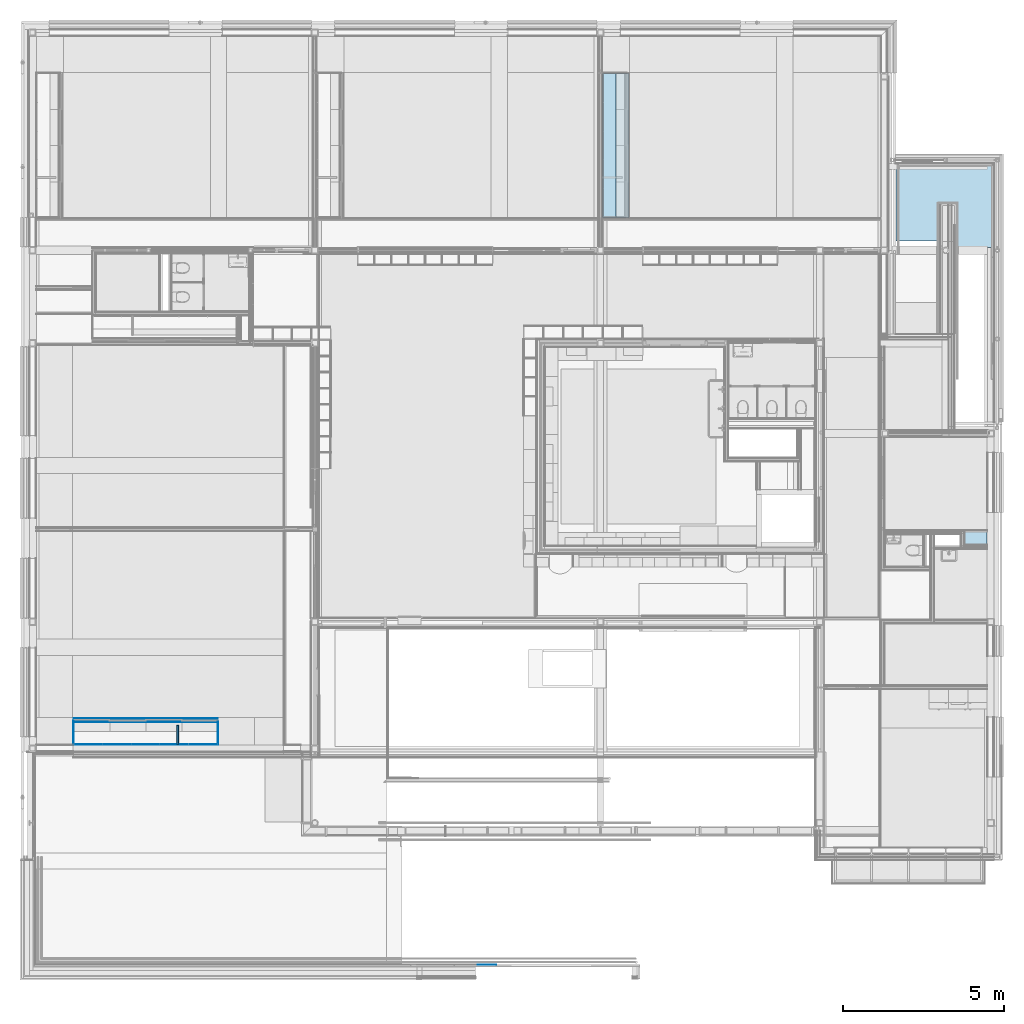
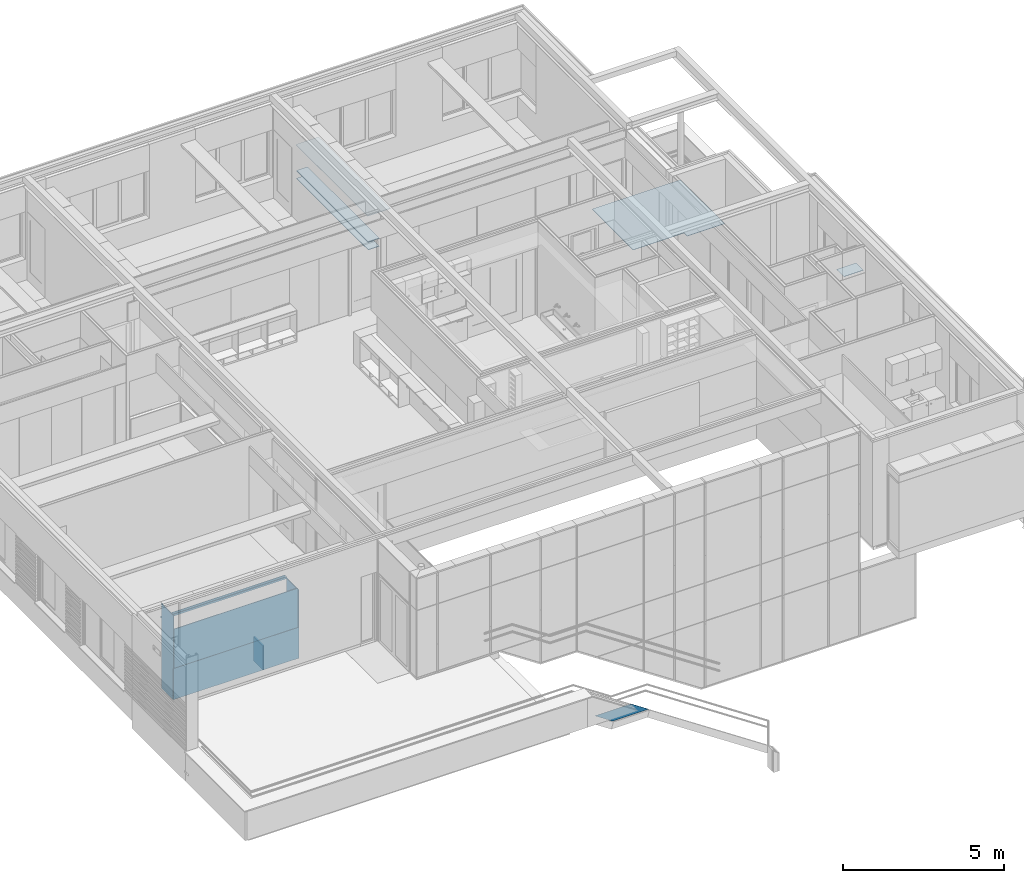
# One storey, part 41 of 137: 8 walls, 5 slabs.
"""IFC2X3 building model written with IfcOpenShell, lengths in millimetres."""

from ifc_helpers import new_model, entity, si_unit, converted_unit, derived_unit, money_unit, direction, frame, origin_with_axes, place, context, subcontext, project, spatial, faceted_brep, material, type_object, element, save


model = new_model("IFC2X3")

# Units and contexts
model_context = context("Model", 3, precision=0.01, world=origin_with_axes(), true_north=direction((0.0, 1.0)))
body_context = subcontext(model_context, "Body", "Model", "MODEL_VIEW")
ifc_project = project(units=[si_unit("LENGTHUNIT", "METRE", prefix="MILLI"), si_unit("AREAUNIT", "SQUARE_METRE"), si_unit("VOLUMEUNIT", "CUBIC_METRE"), converted_unit("PLANEANGLEUNIT", "DEGREE", entity("IfcPlaneAngleMeasure", 0.0174532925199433), si_unit("PLANEANGLEUNIT", "RADIAN"), dimensions=[0, 0, 0, 0, 0, 0, 0]), money_unit("EUR"), converted_unit("TIMEUNIT", "Year", entity("IfcTimeMeasure", 31556926.0), si_unit("TIMEUNIT", "SECOND"), dimensions=[0, 0, 1, 0, 0, 0, 0]), si_unit("MASSUNIT", "GRAM", prefix="KILO"), si_unit("THERMODYNAMICTEMPERATUREUNIT", "DEGREE_CELSIUS"), si_unit("LUMINOUSINTENSITYUNIT", "LUMEN"), si_unit("ENERGYUNIT", "JOULE", prefix="MEGA"), derived_unit("THERMALCONDUCTANCEUNIT", [(si_unit("POWERUNIT", "WATT"), 1), (si_unit("LENGTHUNIT", "METRE"), -1), (si_unit("THERMODYNAMICTEMPERATUREUNIT", "KELVIN"), -1)]), derived_unit("SPECIFICHEATCAPACITYUNIT", [(si_unit("ENERGYUNIT", "JOULE"), 1), (si_unit("MASSUNIT", "GRAM", prefix="KILO"), -1), (si_unit("THERMODYNAMICTEMPERATUREUNIT", "KELVIN"), -1)]), derived_unit("MASSDENSITYUNIT", [(si_unit("MASSUNIT", "GRAM", prefix="KILO"), 1), (si_unit("VOLUMEUNIT", "CUBIC_METRE"), -1)])], contexts=[model_context])

# Site, building, storey
site_placement = place(None, origin_with_axes())
site = spatial("IfcSite", under=ifc_project, at=site_placement, Name="Site", CompositionType="ELEMENT")
building_placement = place(site_placement, origin_with_axes())
building = spatial("IfcBuilding", under=site, at=building_placement, Name="Naam gebouw", CompositionType="ELEMENT")
storey_placement = place(building_placement, frame((0.0, 0.0, 3960.0), z_axis=(0.0, 0.0, 1.0), x_axis=(1.0, 0.0, 0.0)))
storey = spatial("IfcBuildingStorey", under=building, at=storey_placement, Name="1e verdieping", CompositionType="ELEMENT", Elevation=3960.0)

# Slabs
ifc_material_1 = material(Name="Gipsplaat")
slab_type_1 = type_object("IfcSlabType", Name="Gipsplaat 12", PredefinedType="NOTDEFINED")
slab_1_placement = place(storey_placement, frame((28985.99999991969, 13649.99778166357, 2600.0), z_axis=(0.0, 0.0, 1.0), x_axis=(1.0, 0.0, 0.0)))
element("IfcSlab", 1, at=slab_1_placement, inside=storey, type_object=slab_type_1, material=ifc_material_1, Name="f7 Vormvaste grondstoffen, gebonden met gips_Vloer-x", PredefinedType="NOTDEFINED", context=body_context, shape_type="Brep", body=[
    faceted_brep([(0.0, 0.0, 11.99999999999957), (0.0, 0.0, 0.0), (0.007603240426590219, -450.0118316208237, 0.0), (0.007603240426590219, -450.0118316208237, 11.99999999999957), (700.0000000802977, 0.0118269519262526, 11.99999999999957), (700.0000000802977, 0.0118269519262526, 0.0), (700.0076033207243, -450.0000046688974, 0.0), (700.0076033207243, -450.0000046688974, 11.99999999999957)], [[[0, 1, 2, 3]], [[4, 5, 1, 0]], [[2, 1, 5, 6]], [[3, 2, 6, 7]], [[4, 0, 3, 7]], [[7, 6, 5, 4]]]),
])
ifc_material_2 = material(Name="Hout - Multiplex")
slab_type_2 = type_object("IfcSlabType", Name="Hout - Multiplex 20", PredefinedType="NOTDEFINED")
slab_2_placement = place(storey_placement, frame((18184.49942456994, 23347.99984707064, 1400.0), z_axis=(0.0, 0.0, 1.0), x_axis=(1.0, 0.0, 0.0)))
element("IfcSlab", 2, at=slab_2_placement, inside=storey, type_object=slab_type_2, material=ifc_material_2, Name="i4 In lagen verlijmd hout_Vloer-x", PredefinedType="NOTDEFINED", context=body_context, shape_type="Brep", body=[
    faceted_brep([(0.0, 0.0, 0.0), (0.0, 0.0, -19.99999999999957), (0.0, 4460.000000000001, -19.99999999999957), (0.0, 4460.000000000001, 0.0), (-400.0000000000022, 0.0, 0.0), (-400.0000000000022, 0.0, -19.99999999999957), (-400.0000000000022, 4460.000000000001, -19.99999999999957), (-400.0000000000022, 4460.000000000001, 0.0)], [[[0, 1, 2, 3]], [[4, 5, 1, 0]], [[2, 1, 5, 6]], [[3, 2, 6, 7]], [[4, 0, 3, 7]], [[7, 6, 5, 4]]]),
])
slab_3_placement = place(storey_placement, frame((18184.49942456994, 23347.99984707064, 1699.999999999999), z_axis=(0.0, 0.0, 1.0), x_axis=(1.0, 0.0, 0.0)))
element("IfcSlab", 3, at=slab_3_placement, inside=storey, type_object=slab_type_2, material=ifc_material_2, Name="i4 In lagen verlijmd hout_Vloer-x", PredefinedType="NOTDEFINED", context=body_context, shape_type="Brep", body=[
    faceted_brep([(0.0, 0.0, 0.0), (0.0, 0.0, -19.99999999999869), (0.0, 4460.000000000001, -19.99999999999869), (0.0, 4460.000000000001, 0.0), (-400.0000000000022, 0.0, 0.0), (-400.0000000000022, 0.0, -19.99999999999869), (-400.0000000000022, 4460.000000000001, -19.99999999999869), (-400.0000000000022, 4460.000000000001, 0.0)], [[[0, 1, 2, 3]], [[4, 5, 1, 0]], [[2, 1, 5, 6]], [[3, 2, 6, 7]], [[4, 0, 3, 7]], [[7, 6, 5, 4]]]),
])
slab_4_placement = place(storey_placement, frame((18589.49942456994, 23347.99984707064, 2689.999999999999), z_axis=(0.0, 0.0, 1.0), x_axis=(1.0, 0.0, 0.0)))
element("IfcSlab", 4, at=slab_4_placement, inside=storey, type_object=slab_type_2, material=ifc_material_2, Name="i4 In lagen verlijmd hout_Vloer-x", PredefinedType="NOTDEFINED", context=body_context, shape_type="Brep", body=[
    faceted_brep([(0.0, 0.0, 0.0), (0.0, 0.0, -19.99999999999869), (0.0, 4460.000000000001, -19.99999999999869), (0.0, 4460.000000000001, 0.0), (-825.0000000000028, 0.0, 0.0), (-825.0000000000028, 0.0, -19.99999999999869), (-825.0000000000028, 4460.000000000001, -19.99999999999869), (-825.0000000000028, 4460.000000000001, 0.0)], [[[0, 1, 2, 3]], [[4, 5, 1, 0]], [[2, 1, 5, 6]], [[3, 2, 6, 7]], [[4, 0, 3, 7]], [[7, 6, 5, 4]]]),
])
ifc_material_3 = material(Name="Cementgebonden plaatmateriaal")
slab_type_3 = type_object("IfcSlabType", Name="Cementgebonden plaatmateriaal 12", PredefinedType="NOTDEFINED")
slab_5_placement = place(storey_placement, frame((30034.99999999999, 22420.97621590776, -1350.0), z_axis=(0.0, 0.0, 1.0), x_axis=(1.0, 0.0, 0.0)))
element("IfcSlab", 5, at=slab_5_placement, inside=storey, type_object=slab_type_3, material=ifc_material_3, Name="f7 Vormvaste grondstoffen, gebonden met gips_Vloer-x", PredefinedType="NOTDEFINED", context=body_context, shape_type="Brep", body=[
    faceted_brep([(0.0, 0.0, 12.00000000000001), (0.0, 0.0, 0.0), (0.0, 2744.000003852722, 0.0), (0.0, 2744.000003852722, 12.00000000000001), (-1348.999976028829, 0.0, 12.00000000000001), (-1348.999976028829, 0.0, 0.0), (-1348.999976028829, 189.9999999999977, 0.0), (-3174.999999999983, 189.9999999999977, 0.0), (-3174.999999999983, 2744.000003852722, 0.0), (-3174.999999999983, 2744.000003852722, 12.00000000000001), (-3174.999999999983, 189.9999999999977, 12.00000000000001), (-1348.999976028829, 189.9999999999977, 12.00000000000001)], [[[0, 1, 2, 3]], [[4, 5, 1, 0]], [[2, 1, 5, 6, 7, 8]], [[3, 2, 8, 9]], [[4, 0, 3, 9, 10, 11]], [[11, 6, 5, 4]], [[10, 7, 6, 11]], [[9, 8, 7, 10]]]),
])

# Walls
wall_type_1 = type_object("IfcWallType", Name="Hout - Multiplex 20", PredefinedType="NOTDEFINED")
wall_1_placement = place(storey_placement, frame((5834.000000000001, 7800.999661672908, 2600.0), z_axis=(0.0, 0.0, 1.0), x_axis=(-1.0, 0.0, 0.0)))
element("IfcWall", 6, at=wall_1_placement, inside=storey, type_object=wall_type_1, material=ifc_material_2, Name="21_Wand-x", context=body_context, shape_type="Brep", body=[
    faceted_brep([(0.0, -19.99999999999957, 69.9999999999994), (4460.000000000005, -20.00000000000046, 69.9999999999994), (4460.000000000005, 0.0, 69.9999999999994), (0.0, 0.0, 69.9999999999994), (0.0, -19.99999999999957, 0.0), (4460.000000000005, -20.00000000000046, 0.0), (4460.000000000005, 0.0, 0.0), (0.0, 0.0, 0.0)], [[[0, 1, 2, 3]], [[4, 5, 1, 0]], [[2, 1, 5, 6]], [[3, 2, 6, 7]], [[4, 0, 3, 7]], [[7, 6, 5, 4]]]),
])
wall_2_placement = place(storey_placement, frame((5834.000000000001, 7695.999661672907, 2600.0), z_axis=(0.0, 0.0, 1.0), x_axis=(-1.0, 0.0, 0.0)))
element("IfcWall", 7, at=wall_2_placement, inside=storey, type_object=wall_type_1, material=ifc_material_2, Name="21_Wand-x", context=body_context, shape_type="Brep", body=[
    faceted_brep([(4460.000000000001, -20.00000000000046, 69.9999999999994), (4460.000000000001, 0.0, 69.9999999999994), (0.0, 0.0, 69.9999999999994), (0.0, -19.99999999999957, 69.9999999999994), (4460.000000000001, -20.00000000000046, 0.0), (4460.000000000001, 0.0, 0.0), (0.0, 0.0, 0.0), (0.0, -19.99999999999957, 0.0)], [[[0, 1, 2, 3]], [[1, 0, 4, 5]], [[1, 5, 6, 2]], [[7, 3, 2, 6]], [[4, 0, 3, 7]], [[5, 4, 7, 6]]]),
])
wall_3_placement = place(storey_placement, frame((5834.0, 6993.999661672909, 1.99999999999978), z_axis=(0.0, 0.0, 1.0), x_axis=(-1.0, 0.0, 0.0)))
element("IfcWall", 8, at=wall_3_placement, inside=storey, type_object=wall_type_1, material=ifc_material_2, Name="21_Wand-x", context=body_context, shape_type="Brep", body=[
    faceted_brep([(4480.0, -20.00000000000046, 1180.0), (4480.0, 0.0, 1180.0), (-19.99999999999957, 0.0, 1180.0), (-19.99999999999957, -19.99999999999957, 1180.0), (4480.0, -20.00000000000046, 0.0), (4480.0, 0.0, 0.0), (-19.99999999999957, 0.0, 0.0), (-19.99999999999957, -19.99999999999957, 0.0)], [[[0, 1, 2, 3]], [[1, 0, 4, 5]], [[1, 5, 6, 2]], [[7, 3, 2, 6]], [[4, 0, 3, 7]], [[5, 4, 7, 6]]]),
])
wall_4_placement = place(storey_placement, frame((1373.999999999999, 7743.999661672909, 0.0), z_axis=(0.0, 0.0, 1.0), x_axis=(0.0, -1.0, 0.0)))
element("IfcWall", 9, at=wall_4_placement, inside=storey, type_object=wall_type_1, material=ifc_material_2, Name="21_Wand-x", context=body_context, shape_type="Brep", body=[
    faceted_brep([(729.9999999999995, 0.0, 1182.0), (729.9999999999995, 0.0, 1.99999999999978), (750.0, 0.0, 1.99999999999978), (750.0, 0.0, 0.0), (0.0, 0.0, 0.0), (0.0, 0.0, 3200.0), (750.0, 0.0, 3200.0), (750.0, 0.0, 1182.0), (729.9999999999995, -20.00000000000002, 1.99999999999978), (729.9999999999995, -20.00000000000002, 1182.0), (750.0, -20.00000000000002, 1.99999999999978), (750.0, -20.00000000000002, 0.0), (0.0, -20.00000000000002, 0.0), (0.0, -20.00000000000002, 3200.0), (750.0, -20.00000000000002, 3200.0), (750.0, -20.00000000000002, 1182.0)], [[[0, 1, 2, 3, 4, 5, 6, 7]], [[8, 1, 0, 9]], [[10, 2, 1, 8]], [[3, 2, 10, 11]], [[12, 4, 3, 11]], [[5, 4, 12, 13]], [[5, 13, 14, 6]], [[14, 15, 7, 6]], [[9, 0, 7, 15]], [[8, 9, 15, 14, 13, 12, 11, 10]]]),
])
wall_5_placement = place(storey_placement, frame((5834.0, 6995.999661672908, 1182.0), z_axis=(0.0, 0.0, 1.0), x_axis=(-1.0, 0.0, 0.0)))
element("IfcWall", 10, at=wall_5_placement, inside=storey, type_object=wall_type_1, material=ifc_material_2, Name="21_Wand-x", context=body_context, shape_type="Brep", body=[
    faceted_brep([(0.0, 0.0, 1488.0), (0.0, 0.0, 1418.000000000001), (0.0, -19.99999999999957, 1418.000000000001), (0.0, -19.99999999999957, 1488.0), (4460.000000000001, 0.0, 0.0), (0.0, 0.0, 0.0), (4460.000000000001, 0.0, 1488.0), (0.0, -19.99999999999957, 0.0), (4460.000000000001, -20.00000000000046, 0.0), (4460.000000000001, -20.00000000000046, 1488.0)], [[[0, 1, 2, 3]], [[4, 5, 1, 0, 6]], [[5, 7, 2, 1]], [[3, 2, 7, 8, 9]], [[9, 6, 0, 3]], [[8, 7, 5, 4]], [[6, 9, 8, 4]]]),
])
wall_6_placement = place(storey_placement, frame((5834.000000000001, 7713.999661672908, 0.0), z_axis=(0.0, 0.0, 1.0), x_axis=(0.0, -1.0, 0.0)))
element("IfcWall", 11, at=wall_6_placement, inside=storey, type_object=wall_type_1, material=ifc_material_2, Name="21_Wand-x", context=body_context, shape_type="Brep", body=[
    faceted_brep([(699.9999999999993, 19.99999999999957, 1182.0), (699.9999999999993, 19.99999999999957, 1.99999999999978), (719.9999999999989, 19.99999999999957, 1.99999999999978), (719.9999999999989, 20.00000000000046, 0.0), (0.0, 19.99999999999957, 0.0), (0.0, 20.00000000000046, 2600.0), (719.9999999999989, 20.00000000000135, 2600.0), (719.9999999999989, 19.99999999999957, 1182.0), (699.9999999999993, 0.0, 1.99999999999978), (699.9999999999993, 0.0, 1182.0), (719.9999999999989, 0.0, 1.99999999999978), (719.9999999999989, 0.0, 0.0), (0.0, 0.0, 0.0), (0.0, 0.0, 2600.0), (719.9999999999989, 0.0, 2600.0), (719.9999999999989, 0.0, 1182.0)], [[[0, 1, 2, 3, 4, 5, 6, 7]], [[8, 1, 0, 9]], [[10, 2, 1, 8]], [[3, 2, 10, 11]], [[12, 4, 3, 11]], [[12, 13, 5, 4]], [[5, 13, 14, 6]], [[14, 15, 7, 6]], [[9, 0, 7, 15]], [[8, 9, 15, 14, 13, 12, 11, 10]]]),
])
wall_type_2 = type_object("IfcWallType", Name="Hout - Multiplex 50", PredefinedType="NOTDEFINED")
wall_7_placement = place(storey_placement, frame((4574.000000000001, 6993.999661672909, 0.0), z_axis=(0.0, 0.0, 1.0), x_axis=(0.0, 1.0, 0.0)))
element("IfcWall", 12, at=wall_7_placement, inside=storey, type_object=wall_type_2, material=ifc_material_2, Name="21_Wand-x", context=body_context, shape_type="Brep", body=[
    faceted_brep([(611.0000000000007, 0.0, 900.0000000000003), (19.99999999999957, 0.0, 900.0000000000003), (19.99999999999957, -49.99999999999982, 900.0000000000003), (611.0000000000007, -49.99999999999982, 900.0000000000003), (0.0, 0.0, 1.99999999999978), (19.99999999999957, 0.0, 1.99999999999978), (611.0000000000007, 0.0, 0.0), (0.0, 0.0, 0.0), (19.99999999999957, -49.99999999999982, 1.99999999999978), (0.0, -49.99999999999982, 1.99999999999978), (0.0, -49.99999999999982, 0.0), (611.0000000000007, -49.99999999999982, 0.0)], [[[0, 1, 2, 3]], [[4, 5, 1, 0, 6, 7]], [[5, 8, 2, 1]], [[2, 8, 9, 10, 11, 3]], [[11, 6, 0, 3]], [[4, 9, 8, 5]], [[6, 11, 10, 7]], [[10, 9, 4, 7]]]),
])
ifc_material_4 = material(Name="Eternit wit")
wall_type_3 = type_object("IfcWallType", Name="Eternit wit 8", PredefinedType="NOTDEFINED")
wall_8_placement = place(storey_placement, frame((12540.00001480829, 176.0000000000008, -1030.853507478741), z_axis=(0.0, 0.0, 1.0), x_axis=(1.0, 0.0, 0.0)))
element("IfcWall", 13, at=wall_8_placement, inside=storey, type_object=wall_type_3, material=ifc_material_4, Name="21_Wand-x", context=body_context, shape_type="Brep", body=[
    faceted_brep([(1924.999952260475, 0.0, 220.853507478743), (1924.999952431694, 8.000000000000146, 220.853507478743), (1294.999946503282, 8.000000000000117, 640.8535074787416), (1294.999946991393, 0.0, 640.8535074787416), (630.000078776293, 8.000000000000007, 220.853507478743), (630.000078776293, 0.0, 220.853507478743), (0.0, 7.99999999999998, 640.8535074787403), (0.0, 0.0, 640.853507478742)], [[[0, 1, 2, 3]], [[4, 1, 0, 5]], [[1, 4, 6, 2]], [[2, 6, 7, 3]], [[5, 0, 3, 7]], [[4, 5, 7, 6]]]),
])

save(model, "model.ifc")
